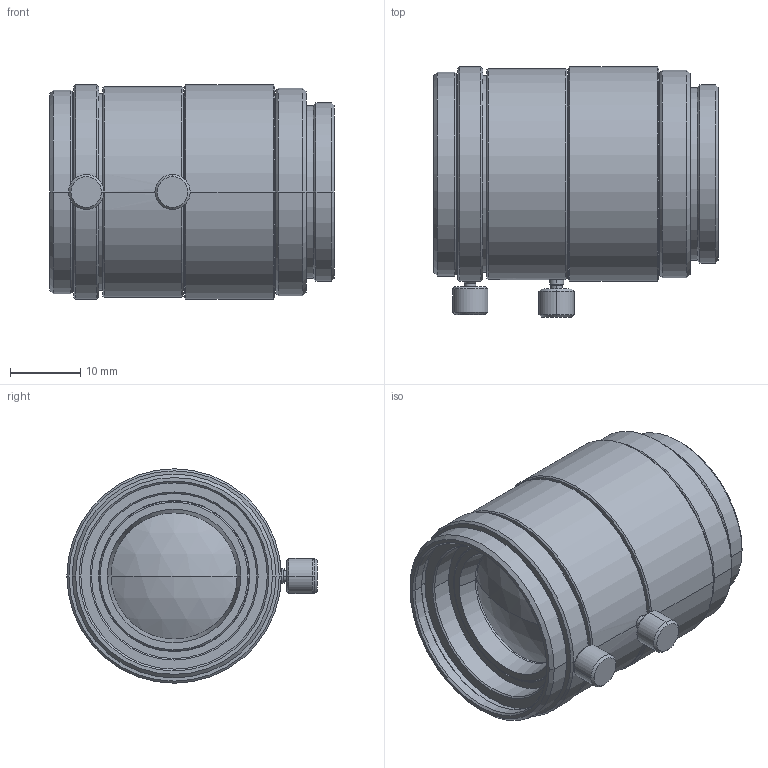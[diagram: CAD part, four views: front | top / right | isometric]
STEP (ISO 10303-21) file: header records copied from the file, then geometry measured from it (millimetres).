
FILE_DESCRIPTION (( 'STEP AP203' ), '1' );
FILE_NAME ('VS-LDA35.STEP', '2016-09-27T00:14:18', ( '' ), ( '' ), 'SwSTEP 2.0', 'SolidWorks 2016', '' );
FILE_SCHEMA (( 'CONFIG_CONTROL_DESIGN' ));
Length unit declared in the file: millimetre
Products named in the file (1): VS-LDA35
Bounding box: 40.47 x 35.6 x 30.5 mm (x, y, z)
Volume: 21728.8 mm3; surface area: 7342.1 mm2
Topology: 1 solids, 1 shells, 136 faces, 274 edges, 160 vertices
Faces by surface type: cone 64, cylinder 46, plane 22, sphere 4
Entity records: 3661 total; most frequent: DIRECTION 698, CARTESIAN_POINT 637, ORIENTED_EDGE 548, AXIS2_PLACEMENT_3D 293, EDGE_CURVE 274, VERTEX_POINT 160, CIRCLE 156, EDGE_LOOP 156
